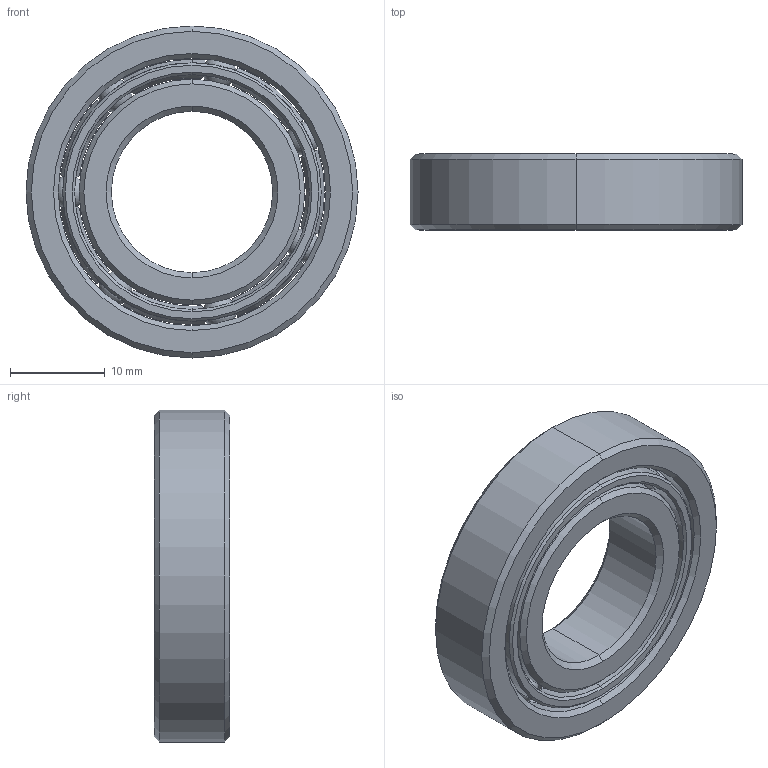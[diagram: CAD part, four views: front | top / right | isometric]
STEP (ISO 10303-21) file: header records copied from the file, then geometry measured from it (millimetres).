
FILE_DESCRIPTION (( 'STEP AP214' ), '1' );
FILE_NAME ('16003 BEARING V3 STYLE.STEP', '2022-02-15T23:38:58', ( '' ), ( '' ), 'SwSTEP 2.0', 'SolidWorks 2019', '' );
FILE_SCHEMA (( 'AUTOMOTIVE_DESIGN' ));
Length unit declared in the file: millimetre
Products named in the file (1): 16003 BEARING V3 STYLE
Bounding box: 35 x 8 x 35 mm (x, y, z)
Volume: 4980.3 mm3; surface area: 5418.2 mm2
Topology: 11 solids, 11 shells, 280 faces, 793 edges, 491 vertices
Faces by surface type: cone 128, sphere 70, cylinder 56, plane 20, torus 6
Entity records: 10084 total; most frequent: CARTESIAN_POINT 2583, ORIENTED_EDGE 1460, DIRECTION 1402, EDGE_CURVE 730, AXIS2_PLACEMENT_3D 653, VERTEX_POINT 470, CIRCLE 372, EDGE_LOOP 286
